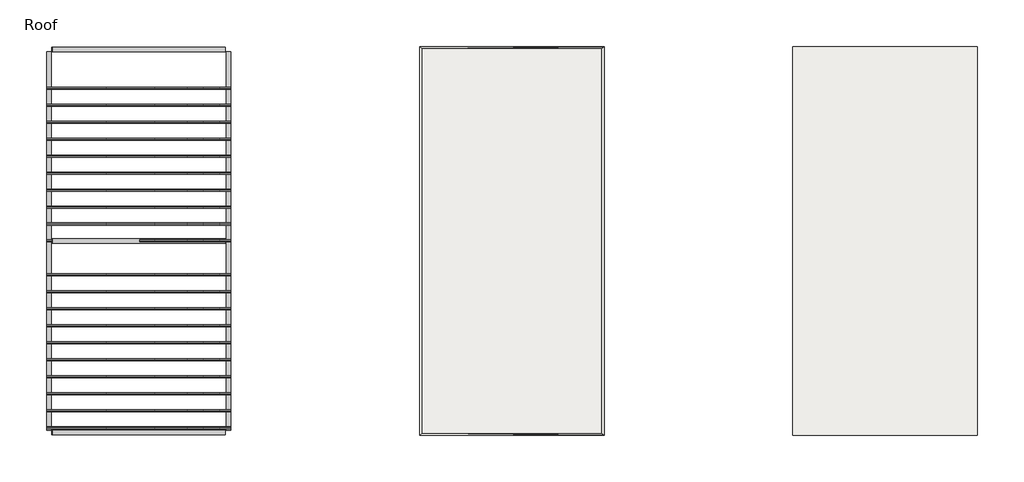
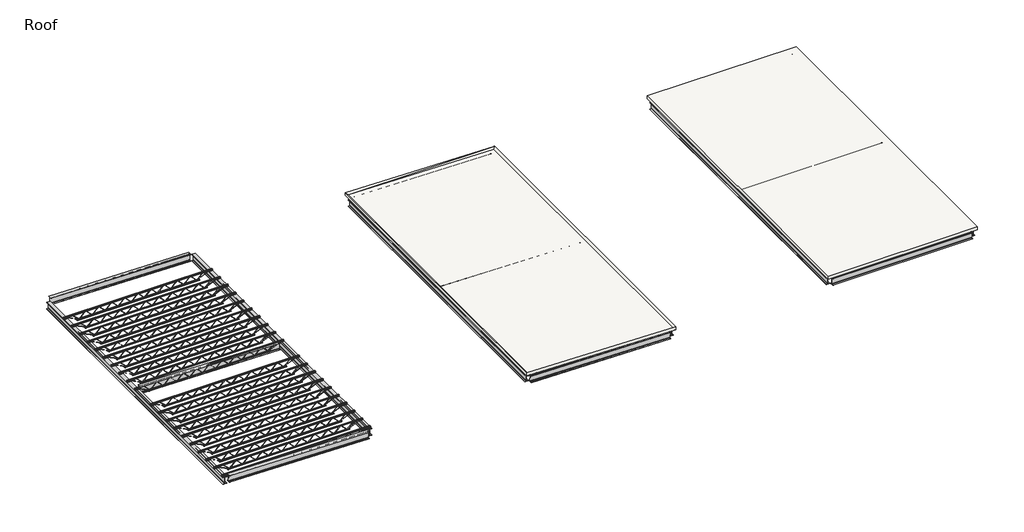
# One storey: 35 beams, 2 roofs.
"""IFC4 building model written with IfcOpenShell, lengths in millimetres."""

from ifc_helpers import new_model, si_unit, frame, origin, place, context, project, spatial, polyline, outline, extrude, faceted_brep, transform, mapped, element, save
from components import k_series_bar_joist_rod_web_12k1_aec08bc9, w_wide_flange_w12x26_2_69ed9353, w_wide_flange_w12x26_2_f84e31c7, w_wide_flange_w12x26_2_a2853275

model = new_model("IFC4")

# Units and contexts
model_context = context("Model", 3, world=origin())
ifc_project = project(units=[si_unit("LENGTHUNIT", "METRE", prefix="MILLI")], contexts=[model_context])

# Site, building, storey
site = spatial("IfcSite", under=ifc_project)
building = spatial("IfcBuilding", under=site)
storey = spatial("IfcBuildingStorey", under=building, Name="Roof", Elevation=3650.0)

# Beams
placement = place(None, origin())
k_series_bar_joist_rod_web_12k1_shape = k_series_bar_joist_rod_web_12k1_aec08bc9(model_context)
element("IfcBeam", 1, ObjectType="K-Series Bar Joist-Rod Web : 12K1", at=placement, inside=storey, context=model_context, shape_type="MappedRepresentation", body=[
    mapped(k_series_bar_joist_rod_web_12k1_shape, transform((2050.6055911, -3709.2648477, 3764.3), x_axis=(1.0, 0.0, 0.0), y_axis=(0.0, 1.0, 0.0), z_axis=(0.0, 0.0, 1.0))),
])
element("IfcBeam", 2, ObjectType="K-Series Bar Joist-Rod Web : 12K1", at=placement, inside=storey, context=model_context, shape_type="MappedRepresentation", body=[
    mapped(k_series_bar_joist_rod_web_12k1_shape, transform((2050.6055911, -3099.6648477, 3764.3), x_axis=(1.0, 0.0, 0.0), y_axis=(0.0, 1.0, 0.0), z_axis=(0.0, 0.0, 1.0))),
])
element("IfcBeam", 3, ObjectType="K-Series Bar Joist-Rod Web : 12K1", at=placement, inside=storey, context=model_context, shape_type="MappedRepresentation", body=[
    mapped(k_series_bar_joist_rod_web_12k1_shape, transform((2050.6055911, -2490.0648477, 3764.3), x_axis=(1.0, 0.0, 0.0), y_axis=(0.0, 1.0, 0.0), z_axis=(0.0, 0.0, 1.0))),
])
element("IfcBeam", 4, ObjectType="K-Series Bar Joist-Rod Web : 12K1", at=placement, inside=storey, context=model_context, shape_type="MappedRepresentation", body=[
    mapped(k_series_bar_joist_rod_web_12k1_shape, transform((2050.6055911, -1880.4648477, 3764.3), x_axis=(1.0, 0.0, 0.0), y_axis=(0.0, 1.0, 0.0), z_axis=(0.0, 0.0, 1.0))),
])
element("IfcBeam", 5, ObjectType="K-Series Bar Joist-Rod Web : 12K1", at=placement, inside=storey, context=model_context, shape_type="MappedRepresentation", body=[
    mapped(k_series_bar_joist_rod_web_12k1_shape, transform((2050.6055911, -1270.8648477, 3764.3), x_axis=(1.0, 0.0, 0.0), y_axis=(0.0, 1.0, 0.0), z_axis=(0.0, 0.0, 1.0))),
])
element("IfcBeam", 6, ObjectType="K-Series Bar Joist-Rod Web : 12K1", at=placement, inside=storey, context=model_context, shape_type="MappedRepresentation", body=[
    mapped(k_series_bar_joist_rod_web_12k1_shape, transform((2050.6055911, -661.2648477, 3764.3), x_axis=(1.0, 0.0, 0.0), y_axis=(0.0, 1.0, 0.0), z_axis=(0.0, 0.0, 1.0))),
])
element("IfcBeam", 7, ObjectType="K-Series Bar Joist-Rod Web : 12K1", at=placement, inside=storey, context=model_context, shape_type="MappedRepresentation", body=[
    mapped(k_series_bar_joist_rod_web_12k1_shape, transform((2050.6055911, -51.6648477, 3764.3), x_axis=(1.0, 0.0, 0.0), y_axis=(0.0, 1.0, 0.0), z_axis=(0.0, 0.0, 1.0))),
])
element("IfcBeam", 8, ObjectType="K-Series Bar Joist-Rod Web : 12K1", at=placement, inside=storey, context=model_context, shape_type="MappedRepresentation", body=[
    mapped(k_series_bar_joist_rod_web_12k1_shape, transform((2050.6055911, 557.9351523, 3764.3), x_axis=(1.0, 0.0, 0.0), y_axis=(0.0, 1.0, 0.0), z_axis=(0.0, 0.0, 1.0))),
])
element("IfcBeam", 9, ObjectType="K-Series Bar Joist-Rod Web : 12K1", at=placement, inside=storey, context=model_context, shape_type="MappedRepresentation", body=[
    mapped(k_series_bar_joist_rod_web_12k1_shape, transform((2050.6055911, 1167.5351523, 3764.3), x_axis=(1.0, 0.0, 0.0), y_axis=(0.0, 1.0, 0.0), z_axis=(0.0, 0.0, 1.0))),
])
element("IfcBeam", 10, ObjectType="K-Series Bar Joist-Rod Web : 12K1", at=placement, inside=storey, context=model_context, shape_type="MappedRepresentation", body=[
    mapped(k_series_bar_joist_rod_web_12k1_shape, transform((2050.6055911, 1777.1351523, 3764.3), x_axis=(1.0, 0.0, 0.0), y_axis=(0.0, 1.0, 0.0), z_axis=(0.0, 0.0, 1.0))),
])
element("IfcBeam", 11, ObjectType="K-Series Bar Joist-Rod Web : 12K1", at=placement, inside=storey, context=model_context, shape_type="MappedRepresentation", body=[
    mapped(k_series_bar_joist_rod_web_12k1_shape, transform((2050.6055911, 3605.9351523, 3764.3), x_axis=(1.0, 0.0, 0.0), y_axis=(0.0, 1.0, 0.0), z_axis=(0.0, 0.0, 1.0))),
])
element("IfcBeam", 12, ObjectType="K-Series Bar Joist-Rod Web : 12K1", at=placement, inside=storey, context=model_context, shape_type="MappedRepresentation", body=[
    mapped(k_series_bar_joist_rod_web_12k1_shape, transform((2050.6055911, 4215.5351523, 3764.3), x_axis=(1.0, 0.0, 0.0), y_axis=(0.0, 1.0, 0.0), z_axis=(0.0, 0.0, 1.0))),
])
element("IfcBeam", 13, ObjectType="K-Series Bar Joist-Rod Web : 12K1", at=placement, inside=storey, context=model_context, shape_type="MappedRepresentation", body=[
    mapped(k_series_bar_joist_rod_web_12k1_shape, transform((2050.6055911, 4825.1351523, 3764.3), x_axis=(1.0, 0.0, 0.0), y_axis=(0.0, 1.0, 0.0), z_axis=(0.0, 0.0, 1.0))),
])
element("IfcBeam", 14, ObjectType="K-Series Bar Joist-Rod Web : 12K1", at=placement, inside=storey, context=model_context, shape_type="MappedRepresentation", body=[
    mapped(k_series_bar_joist_rod_web_12k1_shape, transform((2050.6055911, 5434.7351523, 3764.3), x_axis=(1.0, 0.0, 0.0), y_axis=(0.0, 1.0, 0.0), z_axis=(0.0, 0.0, 1.0))),
])
element("IfcBeam", 15, ObjectType="K-Series Bar Joist-Rod Web : 12K1", at=placement, inside=storey, context=model_context, shape_type="MappedRepresentation", body=[
    mapped(k_series_bar_joist_rod_web_12k1_shape, transform((2050.6055911, 6044.3351523, 3764.3), x_axis=(1.0, 0.0, 0.0), y_axis=(0.0, 1.0, 0.0), z_axis=(0.0, 0.0, 1.0))),
])
element("IfcBeam", 16, ObjectType="K-Series Bar Joist-Rod Web : 12K1", at=placement, inside=storey, context=model_context, shape_type="MappedRepresentation", body=[
    mapped(k_series_bar_joist_rod_web_12k1_shape, transform((2050.6055911, 6653.9351523, 3764.3), x_axis=(1.0, 0.0, 0.0), y_axis=(0.0, 1.0, 0.0), z_axis=(0.0, 0.0, 1.0))),
])
element("IfcBeam", 17, ObjectType="K-Series Bar Joist-Rod Web : 12K1", at=placement, inside=storey, context=model_context, shape_type="MappedRepresentation", body=[
    mapped(k_series_bar_joist_rod_web_12k1_shape, transform((2050.6055911, 7263.5351523, 3764.3), x_axis=(1.0, 0.0, 0.0), y_axis=(0.0, 1.0, 0.0), z_axis=(0.0, 0.0, 1.0))),
])
element("IfcBeam", 18, ObjectType="K-Series Bar Joist-Rod Web : 12K1", at=placement, inside=storey, context=model_context, shape_type="MappedRepresentation", body=[
    mapped(k_series_bar_joist_rod_web_12k1_shape, transform((2050.6055911, 7873.1351523, 3764.3), x_axis=(1.0, 0.0, 0.0), y_axis=(0.0, 1.0, 0.0), z_axis=(0.0, 0.0, 1.0))),
])
element("IfcBeam", 19, ObjectType="K-Series Bar Joist-Rod Web : 12K1", at=placement, inside=storey, context=model_context, shape_type="MappedRepresentation", body=[
    mapped(k_series_bar_joist_rod_web_12k1_shape, transform((2050.6055911, 8482.7351523, 3764.3), x_axis=(1.0, 0.0, 0.0), y_axis=(0.0, 1.0, 0.0), z_axis=(0.0, 0.0, 1.0))),
])
element("IfcBeam", 20, ObjectType="K-Series Bar Joist-Rod Web : 12K1", at=placement, inside=storey, context=model_context, shape_type="MappedRepresentation", body=[
    mapped(k_series_bar_joist_rod_web_12k1_shape, transform((2050.6055911, 2996.3351523, 3764.3), x_axis=(1.0, 0.0, 0.0), y_axis=(0.0, 1.0, 0.0), z_axis=(0.0, 0.0, 1.0))),
])
w_wide_flange_w12x26_2_shape = w_wide_flange_w12x26_2_69ed9353(model_context)
element("IfcBeam", 21, ObjectType="W-Wide Flange : W12X26 2", at=placement, inside=storey, context=model_context, shape_type="MappedRepresentation", body=[
    mapped(w_wide_flange_w12x26_2_shape, transform((12236.0055911, 2996.3351523, 3825.021875), x_axis=(0.0, 1.0, 0.0), y_axis=(-1.0, 0.0, 0.0), z_axis=(0.0, 0.0, 1.0))),
])
element("IfcBeam", 22, ObjectType="W-Wide Flange : W12X26 2", at=placement, inside=storey, context=model_context, shape_type="MappedRepresentation", body=[
    mapped(w_wide_flange_w12x26_2_shape, transform((18687.6055911, 2996.3351523, 3698.021875), x_axis=(0.0, -1.0, 0.0), y_axis=(1.0, 0.0, 0.0), z_axis=(0.0, 0.0, 1.0))),
])
element("IfcBeam", 23, ObjectType="W-Wide Flange : W12X26 2", at=placement, inside=storey, context=model_context, shape_type="MappedRepresentation", body=[
    mapped(w_wide_flange_w12x26_2_shape, transform((25647.2055911, 2996.3351523, 3698.021875), x_axis=(0.0, 1.0, 0.0), y_axis=(-1.0, 0.0, 0.0), z_axis=(0.0, 0.0, 1.0))),
])
element("IfcBeam", 24, ObjectType="W-Wide Flange : W12X26 2", at=placement, inside=storey, context=model_context, shape_type="MappedRepresentation", body=[
    mapped(w_wide_flange_w12x26_2_shape, transform((32098.8055911, 2996.3351523, 3698.021875), x_axis=(0.0, -1.0, 0.0), y_axis=(1.0, 0.0, 0.0), z_axis=(0.0, 0.0, 1.0))),
])
element("IfcBeam", 25, ObjectType="W-Wide Flange : W12X26 2", at=placement, inside=storey, context=model_context, shape_type="MappedRepresentation", body=[
    mapped(w_wide_flange_w12x26_2_shape, transform((-1175.1944089, 2996.3351523, 3698.021875), x_axis=(0.0, 1.0, 0.0), y_axis=(-1.0, 0.0, 0.0), z_axis=(0.0, 0.0, 1.0))),
])
element("IfcBeam", 26, ObjectType="W-Wide Flange : W12X26 2", at=placement, inside=storey, context=model_context, shape_type="MappedRepresentation", body=[
    mapped(w_wide_flange_w12x26_2_shape, transform((5276.4055911, 2996.3351523, 3698.021875), x_axis=(0.0, -1.0, 0.0), y_axis=(1.0, 0.0, 0.0), z_axis=(0.0, 0.0, 1.0))),
])
w_wide_flange_w12x26_2_2_shape = w_wide_flange_w12x26_2_f84e31c7(model_context)
element("IfcBeam", 27, ObjectType="W-Wide Flange : W12X26 2", at=placement, inside=storey, context=model_context, shape_type="MappedRepresentation", body=[
    mapped(w_wide_flange_w12x26_2_2_shape, transform((15458.7753463, 9879.7351523, 3761.5514644), x_axis=(-0.9998093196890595, 0.0, 0.019527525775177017), y_axis=(0.0, -1.0000000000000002, 0.0), z_axis=(0.01952752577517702, 0.0, 0.9998093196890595))),
])
element("IfcBeam", 28, ObjectType="W-Wide Flange : W12X26 2", at=placement, inside=storey, context=model_context, shape_type="MappedRepresentation", body=[
    mapped(w_wide_flange_w12x26_2_2_shape, transform((15458.7753463, -3887.0648477, 3761.5514644), x_axis=(-0.9998093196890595, 0.0, 0.019527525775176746), y_axis=(0.0, -1.0000000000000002, 0.0), z_axis=(0.019527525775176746, 0.0, 0.9998093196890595))),
])
element("IfcBeam", 29, ObjectType="W-Wide Flange : W12X26 2", at=placement, inside=storey, context=model_context, shape_type="MappedRepresentation", body=[
    mapped(w_wide_flange_w12x26_2_2_shape, transform((15458.7753463, 2996.3351523, 3761.5514644), x_axis=(-0.9998093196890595, 0.0, 0.0195275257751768), y_axis=(0.0, -1.0000000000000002, 0.0), z_axis=(0.019527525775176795, 0.0, 0.9998093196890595))),
])
element("IfcBeam", 30, ObjectType="W-Wide Flange : W12X26 2", at=placement, inside=storey, context=model_context, shape_type="MappedRepresentation", body=[
    mapped(w_wide_flange_w12x26_2_2_shape, transform((2047.5753463, 9879.7351523, 3761.5514644), x_axis=(-0.9998093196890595, 0.0, 0.019527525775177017), y_axis=(0.0, -1.0000000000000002, 0.0), z_axis=(0.019527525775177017, 0.0, 0.9998093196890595))),
])
element("IfcBeam", 31, ObjectType="W-Wide Flange : W12X26 2", at=placement, inside=storey, context=model_context, shape_type="MappedRepresentation", body=[
    mapped(w_wide_flange_w12x26_2_2_shape, transform((2047.5753463, -3887.0648477, 3761.5514644), x_axis=(-0.9998093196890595, 0.0, 0.019527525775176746), y_axis=(0.0, -1.0000000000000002, 0.0), z_axis=(0.019527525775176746, 0.0, 0.9998093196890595))),
])
element("IfcBeam", 32, ObjectType="W-Wide Flange : W12X26 2", at=placement, inside=storey, context=model_context, shape_type="MappedRepresentation", body=[
    mapped(w_wide_flange_w12x26_2_2_shape, transform((2047.5753463, 2996.3351523, 3761.5514644), x_axis=(-0.9998093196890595, 0.0, 0.0195275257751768), y_axis=(0.0, -1.0000000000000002, 0.0), z_axis=(0.019527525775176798, 0.0, 0.9998093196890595))),
])
w_wide_flange_w12x26_2_3_shape = w_wide_flange_w12x26_2_a2853275(model_context)
element("IfcBeam", 33, ObjectType="W-Wide Flange : W12X26 2", at=placement, inside=storey, context=model_context, shape_type="MappedRepresentation", body=[
    mapped(w_wide_flange_w12x26_2_3_shape, transform((28873.0055911, 9879.7351523, 3698.021875), x_axis=(-1.0, 0.0, 0.0), y_axis=(0.0, -1.0, 0.0), z_axis=(0.0, 0.0, 1.0))),
])
element("IfcBeam", 34, ObjectType="W-Wide Flange : W12X26 2", at=placement, inside=storey, context=model_context, shape_type="MappedRepresentation", body=[
    mapped(w_wide_flange_w12x26_2_3_shape, transform((28873.0055911, -3887.0648477, 3698.021875), x_axis=(-1.0, 0.0, 0.0), y_axis=(0.0, -1.0, 0.0), z_axis=(0.0, 0.0, 1.0))),
])
element("IfcBeam", 35, ObjectType="W-Wide Flange : W12X26 2", at=placement, inside=storey, context=model_context, shape_type="MappedRepresentation", body=[
    mapped(w_wide_flange_w12x26_2_3_shape, transform((28873.0055911, 2996.3351523, 3698.021875), x_axis=(-1.0, 0.0, 0.0), y_axis=(0.0, -1.0, 0.0), z_axis=(0.0, 0.0, 1.0))),
])

# Roofs
element("IfcRoof", 36, ObjectType="Insulation on Metal Deck - EPDM", at=placement, inside=storey, context=model_context, shape_type="SweptSolid", body=[
    extrude(outline(polyline([(32187.7055911, -3988.6648477), (25558.3055911, -3988.6648477), (25558.3055911, 9981.3351523), (32187.7055911, 9981.3351523), (32187.7055911, -3988.6648477)])), frame((0.0, 0.0, 3919.875), z_axis=(0.0, 0.0, 1.0), x_axis=(1.0, 0.0, 0.0)), (0.0, 0.0, 1.0), 139.7),
])
element("IfcRoof", 37, ObjectType="LDC - Insulation on Metal Deck - EPDM Sloped", at=placement, inside=storey, context=model_context, shape_type="Brep", body=[
    faceted_brep([(12147.1055911, -3988.6648477, 4211.975), (12147.1055911, -3988.6648477, 4072.275), (18776.5055911, -3988.6648477, 3919.875), (18776.5055911, -3988.6648477, 4059.575), (18776.5055911, 9981.3351523, 3919.875), (18776.5055911, 9981.3351523, 4059.575), (12147.1055911, 9981.3351523, 4211.975), (12147.1055911, 9981.3351523, 4072.275), (12236.0055911, -3912.4648477, 4119.9), (12236.0055911, 9905.1351523, 4119.9), (18687.6055911, -3912.4648477, 3992.9), (18687.6055911, 9905.1351523, 3992.9), (12236.0055911, 9905.1351523, 3980.2), (12236.0055911, -3912.4648477, 3980.2), (18687.6055911, 9905.1351523, 3853.2), (18687.6055911, -3912.4648477, 3853.2)], [[[0, 1, 2, 3]], [[3, 2, 4, 5]], [[6, 7, 1, 0]], [[5, 4, 7, 6]], [[6, 0, 8, 9]], [[3, 8, 0]], [[5, 6, 9]], [[8, 10, 11, 9]], [[3, 5, 11, 10]], [[3, 10, 8]], [[5, 9, 11]], [[7, 12, 13, 1]], [[2, 1, 13]], [[4, 12, 7]], [[13, 12, 14, 15]], [[2, 15, 14, 4]], [[2, 13, 15]], [[4, 14, 12]]]),
])

save(model, "model.ifc")
